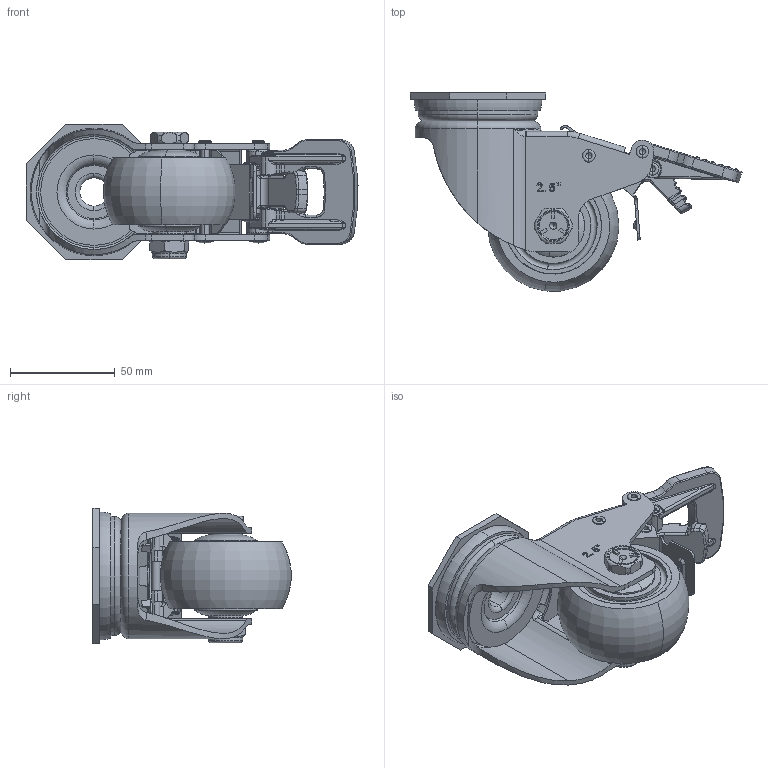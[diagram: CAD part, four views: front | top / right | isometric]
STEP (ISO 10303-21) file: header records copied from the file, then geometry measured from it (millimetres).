
FILE_DESCRIPTION (( 'STEP AP203' ), '1' );
FILE_NAME ('2.5寸孔顶万向刹车.STEP', '2024-03-19T03:32:13', ( '微软用户' ), ( '微软中国' ), 'SwSTEP 2.0', 'SolidWorks 2008', '' );
FILE_SCHEMA (( 'CONFIG_CONTROL_DESIGN' ));
Length unit declared in the file: millimetre
Products named in the file (13): 解刹手柄OFF   B_默认; 3.9｡ﾁ30ﾎｲｿﾗｶ､_ﾄｬﾈﾏ; 2023-3-15   2.5寸刹车片 B_默认; 中型2.5寸轮_默认; 孔顶_默认; 2.5渡謂階勀砃价陬; 2023-3-8  中型2.5寸（AB刹）支架B_默认; 3.9｡ﾁ49ﾎｲｿﾗｶ､_ﾄｬﾈﾏ; 3.9｡ﾁ39ﾎｲｿﾗｶ､_ﾄｬﾈﾏ; 刹车手柄ON_默认; 40.2mm中型中管_默认; M10-55蹟裝; M10蹟譫
Assembly tree (13 placements, depth 2):
  2.5渡謂階勀砃价陬
    2023-3-15   2.5寸刹车片 B_默认
    中型2.5寸轮_默认
    M10-55蹟裝
    3.9｡ﾁ49ﾎｲｿﾗｶ､_ﾄｬﾈﾏ  x2
    3.9｡ﾁ30ﾎｲｿﾗｶ､_ﾄｬﾈﾏ
    2023-3-8  中型2.5寸（AB刹）支架B_默认
    40.2mm中型中管_默认
    解刹手柄OFF   B_默认
    刹车手柄ON_默认
    孔顶_默认
    M10蹟譫
    3.9｡ﾁ39ﾎｲｿﾗｶ､_ﾄｬﾈﾏ
Bounding box: 158.74 x 94.72 x 65.01 mm (x, y, z)
Volume: 195921.7 mm3; surface area: 81977.2 mm2
Topology: 13 solids, 13 shells, 1372 faces, 3420 edges, 2099 vertices
Faces by surface type: cylinder 533, plane 379, bspline 302, torus 110, cone 34, sphere 14
Entity records: 56105 total; most frequent: CARTESIAN_POINT 24886, ORIENTED_EDGE 6698, DIRECTION 5621, EDGE_CURVE 3349, AXIS2_PLACEMENT_3D 2089, VERTEX_POINT 2077, EDGE_LOOP 1458, VECTOR 1443
